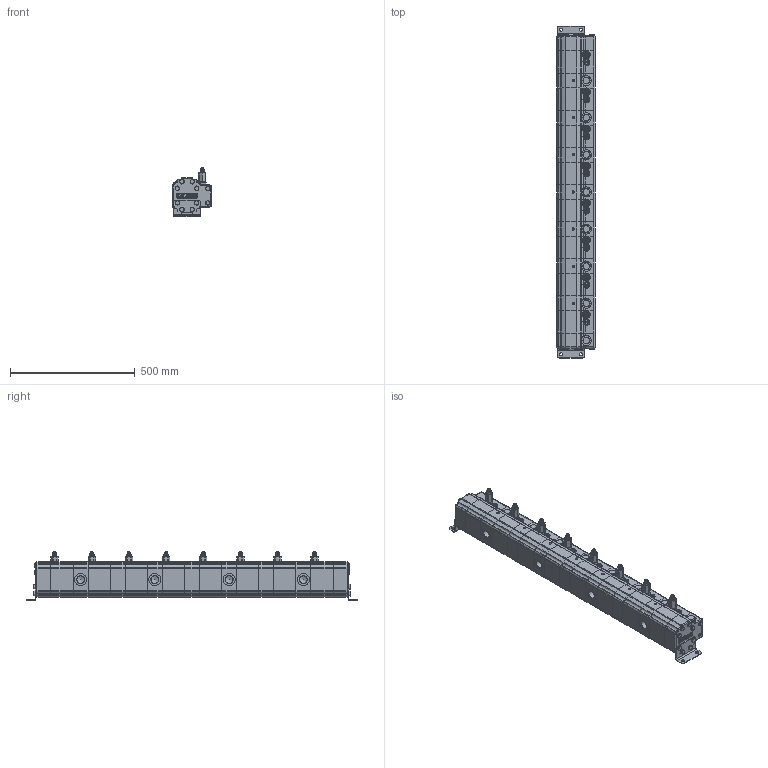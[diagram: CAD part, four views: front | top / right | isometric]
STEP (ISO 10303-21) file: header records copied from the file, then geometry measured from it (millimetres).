
FILE_DESCRIPTION(/* description */ ('Unknown'),/* implementation_level */ '2;1');
FILE_NAME(/* name */ '9V08-79',/* time_stamp */ '2020-04-18T14:29:06+02:00',/* author */ ('Unknown'),/* organization */ ('Unknown'),/* preprocessor_version */ 'ST-DEVELOPER v16.7',/* originating_system */ 'DEX',/* authorisation */ $);
FILE_SCHEMA (('AUTOMOTIVE_DESIGN {1 0 10303 214 3 1 1}'));
Products named in the file (1): XV-3V20
Bounding box: 155 x 1332 x 197 mm (x, y, z)
Volume: 23065410.3 mm3; surface area: 838171.8 mm2
Topology: 1 solids, 1 shells, 2401 faces, 5709 edges, 3420 vertices
Faces by surface type: cylinder 1055, plane 1022, cone 212, bspline 72, torus 40
Full cylindrical faces by diameter (mm): 8 x8, 8.376 x14, 12.5 x4, 16 x20, 17 x8, 18 x16, 26.5 x16, 27 x8, 30.291 x26, 40 x8, 48 x4, 50 x1, 55 x8
Entity records: 104078 total; most frequent: CARTESIAN_POINT 35763, ORIENTED_EDGE 10572, DIRECTION 10272, EDGE_CURVE 5286, AXIS2_PLACEMENT_3D 3984, VERTEX_POINT 3318, FACE_BOUND 2840, EDGE_LOOP 2820
